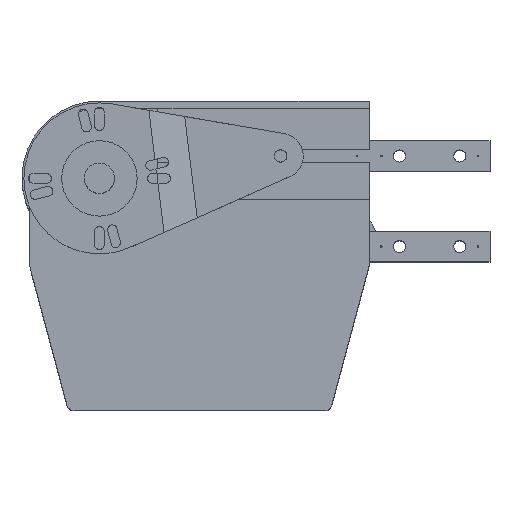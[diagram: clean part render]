
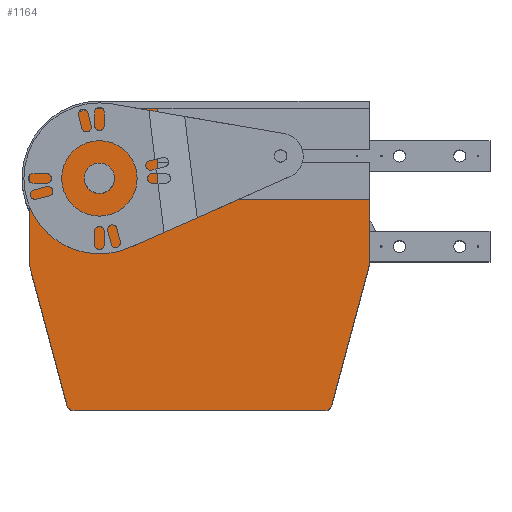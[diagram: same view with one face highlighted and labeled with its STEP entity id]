
A CAD part, top view. The second image highlights one B-rep face of the part: STEP entity #1164.
In plain terms, the highlighted planar face has unit normal (0, 0, 1).
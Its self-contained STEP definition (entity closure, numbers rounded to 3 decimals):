
#17 = DIRECTION ( 'NONE',  ( 0., 0., 1. ) ) ;
#67 = LINE ( 'NONE', #3134, #4813 ) ;
#312 = VERTEX_POINT ( 'NONE', #4617 ) ;
#341 = LINE ( 'NONE', #4780, #727 ) ;
#385 = DIRECTION ( 'NONE',  ( 0., 0., 1. ) ) ;
#388 = LINE ( 'NONE', #6633, #2625 ) ;
#438 = ORIENTED_EDGE ( 'NONE', *, *, #7578, .T. ) ;
#455 = CIRCLE ( 'NONE', #5198, 46.3 ) ;
#488 = VERTEX_POINT ( 'NONE', #7842 ) ;
#551 = CARTESIAN_POINT ( 'NONE',  ( 51.3, -51.3, 81.5 ) ) ;
#592 = VECTOR ( 'NONE', #2099, 1000. ) ;
#663 = CARTESIAN_POINT ( 'NONE',  ( 5.17, -109.636, 81.5 ) ) ;
#727 = VECTOR ( 'NONE', #7304, 1000. ) ;
#786 = DIRECTION ( 'NONE',  ( 0., 0., 1. ) ) ;
#793 = DIRECTION ( 'NONE',  ( 0., -1., 0. ) ) ;
#826 = CARTESIAN_POINT ( 'NONE',  ( 34.56, -205., 81.5 ) ) ;
#1037 = DIRECTION ( 'NONE',  ( -1., 0., 0. ) ) ;
#1062 = CARTESIAN_POINT ( 'NONE',  ( 230., -106.4, 81.5 ) ) ;
#1076 = EDGE_LOOP ( 'NONE', ( #6088, #2446 ) ) ;
#1100 = ORIENTED_EDGE ( 'NONE', *, *, #4618, .T. ) ;
#1120 = ORIENTED_EDGE ( 'NONE', *, *, #3212, .T. ) ;
#1129 = VERTEX_POINT ( 'NONE', #3172 ) ;
#1164 = ADVANCED_FACE ( 'NONE', ( #5401, #3068 ), #1944, .F. ) ;
#1180 = EDGE_CURVE ( 'NONE', #2929, #3900, #67, .T. ) ;
#1218 = DIRECTION ( 'NONE',  ( -1., 0., 0. ) ) ;
#1227 = VECTOR ( 'NONE', #5948, 1000. ) ;
#1271 = CARTESIAN_POINT ( 'NONE',  ( 5., -51.3, 81.5 ) ) ;
#1274 = AXIS2_PLACEMENT_3D ( 'NONE', #3085, #4952, #5015 ) ;
#1378 = DIRECTION ( 'NONE',  ( 0., 0., -1. ) ) ;
#1452 = ORIENTED_EDGE ( 'NONE', *, *, #4631, .T. ) ;
#1475 = ORIENTED_EDGE ( 'NONE', *, *, #2238, .T. ) ;
#1499 = CARTESIAN_POINT ( 'NONE',  ( 5.17, -109.636, 81.5 ) ) ;
#1581 = ORIENTED_EDGE ( 'NONE', *, *, #4541, .T. ) ;
#1721 = EDGE_CURVE ( 'NONE', #7980, #6600, #2327, .T. ) ;
#1767 = CIRCLE ( 'NONE', #7762, 5. ) ;
#1944 = PLANE ( 'NONE',  #1274 ) ;
#2065 = AXIS2_PLACEMENT_3D ( 'NONE', #3553, #2376, #1037 ) ;
#2099 = DIRECTION ( 'NONE',  ( 0.259, -0.966, 0. ) ) ;
#2173 = AXIS2_PLACEMENT_3D ( 'NONE', #551, #2950, #7394 ) ;
#2222 = DIRECTION ( 'NONE',  ( 0., 1., 0. ) ) ;
#2238 = EDGE_CURVE ( 'NONE', #7270, #312, #388, .T. ) ;
#2244 = CARTESIAN_POINT ( 'NONE',  ( 90., -46.4, 81.5 ) ) ;
#2312 = CARTESIAN_POINT ( 'NONE',  ( 90., -5., 81.5 ) ) ;
#2317 = AXIS2_PLACEMENT_3D ( 'NONE', #3835, #1378, #7592 ) ;
#2327 = CIRCLE ( 'NONE', #2317, 10. ) ;
#2360 = CARTESIAN_POINT ( 'NONE',  ( 5., -108.342, 81.5 ) ) ;
#2376 = DIRECTION ( 'NONE',  ( 0., 0., 1. ) ) ;
#2439 = CARTESIAN_POINT ( 'NONE',  ( 230., -109., 81.5 ) ) ;
#2446 = ORIENTED_EDGE ( 'NONE', *, *, #1721, .T. ) ;
#2535 = EDGE_CURVE ( 'NONE', #5010, #5660, #3140, .T. ) ;
#2625 = VECTOR ( 'NONE', #2921, 1000. ) ;
#2847 = CARTESIAN_POINT ( 'NONE',  ( 5., -51.3, 81.5 ) ) ;
#2921 = DIRECTION ( 'NONE',  ( -1., 0., 0. ) ) ;
#2929 = VERTEX_POINT ( 'NONE', #826 ) ;
#2950 = DIRECTION ( 'NONE',  ( 0., 0., -1. ) ) ;
#3068 = FACE_OUTER_BOUND ( 'NONE', #6783, .T. ) ;
#3070 = VERTEX_POINT ( 'NONE', #3498 ) ;
#3085 = CARTESIAN_POINT ( 'NONE',  ( 200.44, -200., 81.5 ) ) ;
#3099 = CARTESIAN_POINT ( 'NONE',  ( 10., -108.342, 81.5 ) ) ;
#3110 = ORIENTED_EDGE ( 'NONE', *, *, #4168, .T. ) ;
#3134 = CARTESIAN_POINT ( 'NONE',  ( 34.56, -205., 81.5 ) ) ;
#3140 = LINE ( 'NONE', #1271, #4504 ) ;
#3172 = CARTESIAN_POINT ( 'NONE',  ( 90., -65., 81.5 ) ) ;
#3212 = EDGE_CURVE ( 'NONE', #488, #2929, #6524, .T. ) ;
#3218 = LINE ( 'NONE', #1499, #592 ) ;
#3298 = DIRECTION ( 'NONE',  ( -1., 0., 0. ) ) ;
#3343 = EDGE_CURVE ( 'NONE', #5660, #7738, #1767, .T. ) ;
#3498 = CARTESIAN_POINT ( 'NONE',  ( 230., -65., 81.5 ) ) ;
#3553 = CARTESIAN_POINT ( 'NONE',  ( 34.56, -200., 81.5 ) ) ;
#3766 = DIRECTION ( 'NONE',  ( 1., 0., 0. ) ) ;
#3775 = CARTESIAN_POINT ( 'NONE',  ( 200.44, -205., 81.5 ) ) ;
#3835 = CARTESIAN_POINT ( 'NONE',  ( 51.3, -51.3, 81.5 ) ) ;
#3900 = VERTEX_POINT ( 'NONE', #3775 ) ;
#3945 = CARTESIAN_POINT ( 'NONE',  ( 200.44, -200., 81.5 ) ) ;
#4168 = EDGE_CURVE ( 'NONE', #7738, #488, #3218, .T. ) ;
#4195 = ORIENTED_EDGE ( 'NONE', *, *, #5250, .T. ) ;
#4255 = AXIS2_PLACEMENT_3D ( 'NONE', #3945, #786, #3298 ) ;
#4338 = CARTESIAN_POINT ( 'NONE',  ( 61.3, -51.3, 81.5 ) ) ;
#4431 = VERTEX_POINT ( 'NONE', #2439 ) ;
#4504 = VECTOR ( 'NONE', #793, 1000. ) ;
#4541 = EDGE_CURVE ( 'NONE', #1129, #7270, #5777, .T. ) ;
#4617 = CARTESIAN_POINT ( 'NONE',  ( 51.3, -5., 81.5 ) ) ;
#4618 = EDGE_CURVE ( 'NONE', #4431, #3070, #6955, .T. ) ;
#4631 = EDGE_CURVE ( 'NONE', #312, #5010, #455, .T. ) ;
#4649 = EDGE_CURVE ( 'NONE', #6600, #7980, #7046, .T. ) ;
#4715 = DIRECTION ( 'NONE',  ( -1., 0., 0. ) ) ;
#4780 = CARTESIAN_POINT ( 'NONE',  ( 230., -65., 81.5 ) ) ;
#4813 = VECTOR ( 'NONE', #3766, 1000. ) ;
#4952 = DIRECTION ( 'NONE',  ( 0., 0., -1. ) ) ;
#5010 = VERTEX_POINT ( 'NONE', #2847 ) ;
#5015 = DIRECTION ( 'NONE',  ( -1., 0., 0. ) ) ;
#5085 = LINE ( 'NONE', #5525, #6250 ) ;
#5096 = VERTEX_POINT ( 'NONE', #7279 ) ;
#5174 = EDGE_CURVE ( 'NONE', #3070, #1129, #341, .T. ) ;
#5198 = AXIS2_PLACEMENT_3D ( 'NONE', #7833, #385, #4715 ) ;
#5250 = EDGE_CURVE ( 'NONE', #5096, #4431, #5085, .T. ) ;
#5401 = FACE_BOUND ( 'NONE', #1076, .T. ) ;
#5525 = CARTESIAN_POINT ( 'NONE',  ( 230., -109., 81.5 ) ) ;
#5545 = DIRECTION ( 'NONE',  ( 0.259, 0.966, 0. ) ) ;
#5660 = VERTEX_POINT ( 'NONE', #2360 ) ;
#5777 = LINE ( 'NONE', #2244, #1227 ) ;
#5948 = DIRECTION ( 'NONE',  ( 0., 1., 0. ) ) ;
#6054 = ORIENTED_EDGE ( 'NONE', *, *, #3343, .T. ) ;
#6088 = ORIENTED_EDGE ( 'NONE', *, *, #4649, .T. ) ;
#6250 = VECTOR ( 'NONE', #5545, 1000. ) ;
#6272 = CIRCLE ( 'NONE', #4255, 5. ) ;
#6524 = CIRCLE ( 'NONE', #2065, 5. ) ;
#6560 = VECTOR ( 'NONE', #2222, 1000. ) ;
#6600 = VERTEX_POINT ( 'NONE', #4338 ) ;
#6633 = CARTESIAN_POINT ( 'NONE',  ( 51.3, -5., 81.5 ) ) ;
#6783 = EDGE_LOOP ( 'NONE', ( #1581, #1475, #1452, #7955, #6054, #3110, #1120, #7735, #438, #4195, #1100, #8015 ) ) ;
#6955 = LINE ( 'NONE', #1062, #6560 ) ;
#7046 = CIRCLE ( 'NONE', #2173, 10. ) ;
#7270 = VERTEX_POINT ( 'NONE', #2312 ) ;
#7279 = CARTESIAN_POINT ( 'NONE',  ( 205.27, -201.294, 81.5 ) ) ;
#7304 = DIRECTION ( 'NONE',  ( -1., 0., 0. ) ) ;
#7394 = DIRECTION ( 'NONE',  ( -1., 0., 0. ) ) ;
#7578 = EDGE_CURVE ( 'NONE', #3900, #5096, #6272, .T. ) ;
#7592 = DIRECTION ( 'NONE',  ( -1., 0., 0. ) ) ;
#7735 = ORIENTED_EDGE ( 'NONE', *, *, #1180, .T. ) ;
#7738 = VERTEX_POINT ( 'NONE', #663 ) ;
#7762 = AXIS2_PLACEMENT_3D ( 'NONE', #3099, #17, #1218 ) ;
#7833 = CARTESIAN_POINT ( 'NONE',  ( 51.3, -51.3, 81.5 ) ) ;
#7842 = CARTESIAN_POINT ( 'NONE',  ( 29.73, -201.294, 81.5 ) ) ;
#7955 = ORIENTED_EDGE ( 'NONE', *, *, #2535, .T. ) ;
#7980 = VERTEX_POINT ( 'NONE', #8016 ) ;
#8015 = ORIENTED_EDGE ( 'NONE', *, *, #5174, .T. ) ;
#8016 = CARTESIAN_POINT ( 'NONE',  ( 41.3, -51.3, 81.5 ) ) ;
